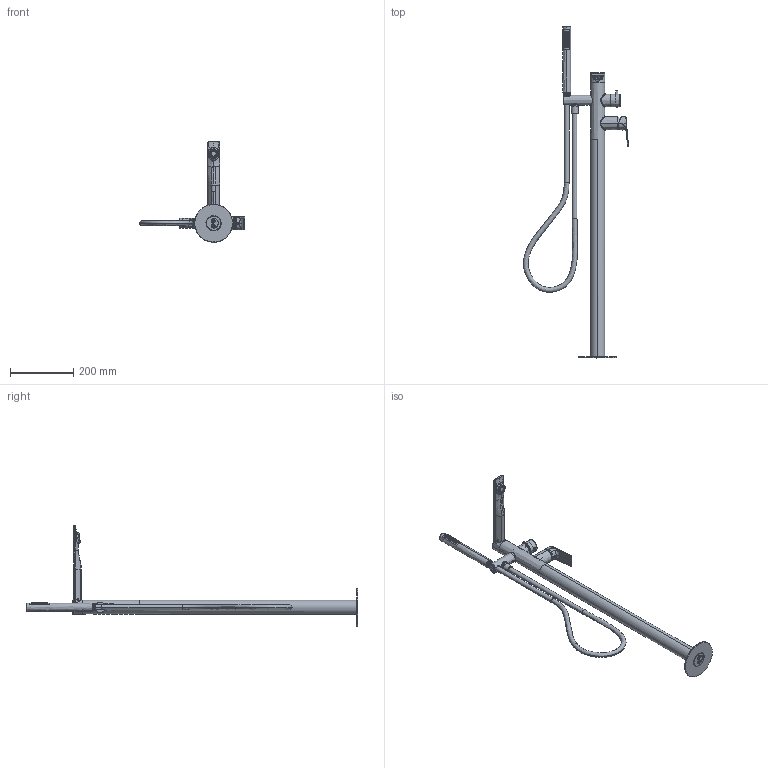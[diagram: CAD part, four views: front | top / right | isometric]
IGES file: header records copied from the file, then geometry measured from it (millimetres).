
Start section:  PTC IGES file: 78594_sw0001.igs
Global section: file name: 78594_sw0001.igs; native system: Creo Parametric by PTC Inc.; preprocessor: 2022014; author: volponeff; organization: Unknown; date: 20250213.151259; units: millimetre
Bounding box: 332.77 x 1051.1 x 317.96 mm (x, y, z)
Surface area: 568742.2 mm2 (no closed solid volume)
Topology: 0 solids, 0 shells, 1898 faces, 9066 edges, 9034 vertices
Faces by surface type: revolution 1307, bspline 585, extrusion 6
